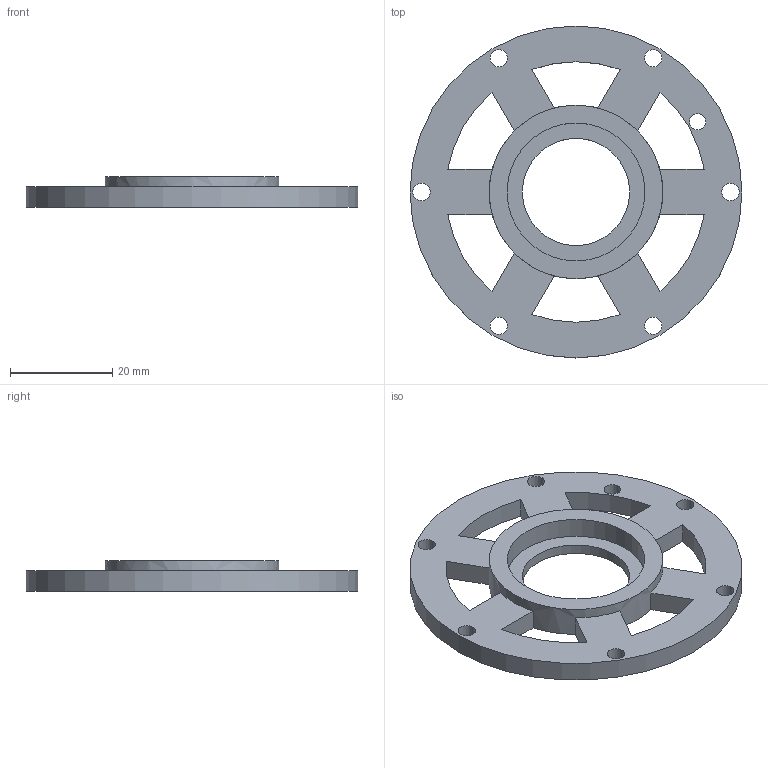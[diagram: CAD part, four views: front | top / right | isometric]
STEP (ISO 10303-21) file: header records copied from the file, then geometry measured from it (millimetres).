
FILE_DESCRIPTION(('Open CASCADE Model'),'2;1');
FILE_NAME('Open CASCADE Shape Model','2026-10-04T21:56:21',('Author'),( 'Open CASCADE'),'Open CASCADE STEP processor 7.9','Open CASCADE 7.9' ,'Unknown');
FILE_SCHEMA(('AUTOMOTIVE_DESIGN { 1 0 10303 214 1 1 1 1 }'));
Length unit declared in the file: millimetre
Products named in the file (1): Open CASCADE STEP translator 7.9 3
Bounding box: 65 x 65 x 6 mm (x, y, z)
Volume: 9167.1 mm3; surface area: 7322.9 mm2
Topology: 1 solids, 1 shells, 33 faces, 105 edges, 70 vertices
Faces by surface type: cylinder 17, plane 16
Full cylindrical faces by diameter (mm): 3.2 x1, 3.4 x6, 21 x1, 27 x1, 34 x1, 65 x1
Entity records: 2604 total; most frequent: CARTESIAN_POINT 503, DIRECTION 385, ORIENTED_EDGE 210, PCURVE 210, DEFINITIONAL_REPRESENTATION 210, LINE 187, VECTOR 187, EDGE_CURVE 105
